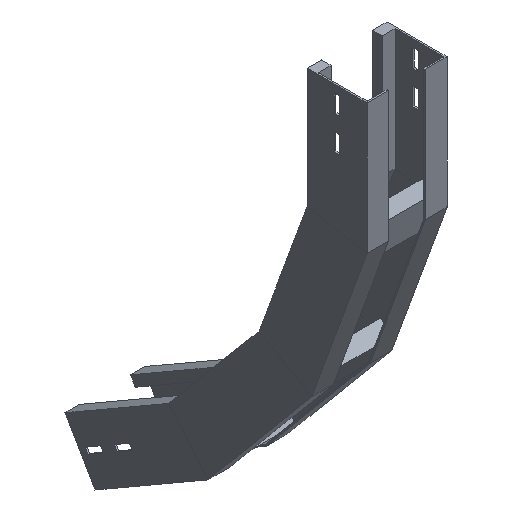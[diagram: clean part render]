
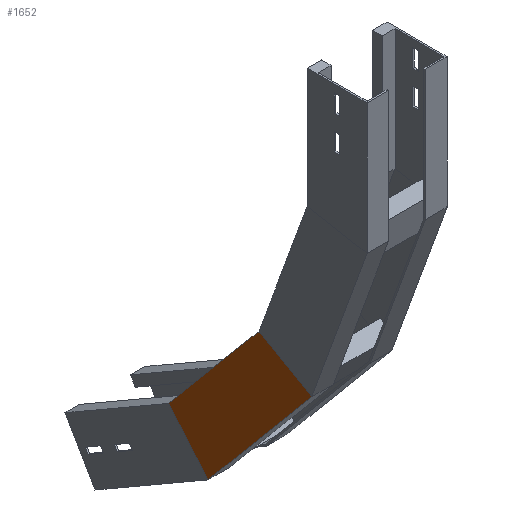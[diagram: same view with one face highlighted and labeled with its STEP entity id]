
A CAD part, isometric view. The second image highlights one B-rep face of the part: STEP entity #1652.
In plain terms, the highlighted planar face has unit normal (-1, 0, 0) as drawn and (1, 0, 0) by its records, which use the part's own axes.
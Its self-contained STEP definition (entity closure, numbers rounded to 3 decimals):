
#19 = ORIENTED_EDGE ( 'NONE', *, *, #341, .F. ) ;
#202 = DIRECTION ( 'NONE',  ( -1., 0., 0. ) ) ;
#244 = ORIENTED_EDGE ( 'NONE', *, *, #394, .F. ) ;
#265 = EDGE_CURVE ( 'NONE', #1370, #370, #976, .T. ) ;
#271 = DIRECTION ( 'NONE',  ( 0., 0.342, -0.94 ) ) ;
#315 = VECTOR ( 'NONE', #1266, 1000. ) ;
#319 = VERTEX_POINT ( 'NONE', #706 ) ;
#323 = PLANE ( 'NONE',  #462 ) ;
#325 = LINE ( 'NONE', #868, #315 ) ;
#341 = EDGE_CURVE ( 'NONE', #319, #1438, #325, .T. ) ;
#355 = CARTESIAN_POINT ( 'NONE',  ( 0., 0., -163. ) ) ;
#370 = VERTEX_POINT ( 'NONE', #355 ) ;
#372 = ORIENTED_EDGE ( 'NONE', *, *, #265, .T. ) ;
#394 = EDGE_CURVE ( 'NONE', #1370, #319, #399, .T. ) ;
#399 = LINE ( 'NONE', #946, #746 ) ;
#462 = AXIS2_PLACEMENT_3D ( 'NONE', #1386, #202, #1137 ) ;
#504 = EDGE_LOOP ( 'NONE', ( #244, #372, #980, #19 ) ) ;
#567 = DIRECTION ( 'NONE',  ( 0., 0.342, -0.94 ) ) ;
#706 = CARTESIAN_POINT ( 'NONE',  ( 0., 135.11, -314.927 ) ) ;
#746 = VECTOR ( 'NONE', #271, 1000. ) ;
#823 = LINE ( 'NONE', #953, #1347 ) ;
#868 = CARTESIAN_POINT ( 'NONE',  ( 0., 99.564, -335.45 ) ) ;
#890 = EDGE_CURVE ( 'NONE', #370, #1438, #823, .T. ) ;
#946 = CARTESIAN_POINT ( 'NONE',  ( 0., 70.477, -137.348 ) ) ;
#953 = CARTESIAN_POINT ( 'NONE',  ( 0., 0., -163. ) ) ;
#976 = LINE ( 'NONE', #1494, #1265 ) ;
#980 = ORIENTED_EDGE ( 'NONE', *, *, #890, .T. ) ;
#982 = DIRECTION ( 'NONE',  ( 0., -0.985, -0.174 ) ) ;
#989 = CARTESIAN_POINT ( 'NONE',  ( 0., 75., -149.775 ) ) ;
#1137 = DIRECTION ( 'NONE',  ( 0., 0., 1. ) ) ;
#1265 = VECTOR ( 'NONE', #982, 1000. ) ;
#1266 = DIRECTION ( 'NONE',  ( 0., -0.866, -0.5 ) ) ;
#1347 = VECTOR ( 'NONE', #567, 1000. ) ;
#1370 = VERTEX_POINT ( 'NONE', #989 ) ;
#1386 = CARTESIAN_POINT ( 'NONE',  ( 0., 0., -163. ) ) ;
#1438 = VERTEX_POINT ( 'NONE', #1473 ) ;
#1473 = CARTESIAN_POINT ( 'NONE',  ( 0., 69.156, -353.006 ) ) ;
#1494 = CARTESIAN_POINT ( 'NONE',  ( 0., 27.875, -158.085 ) ) ;
#1513 = FACE_OUTER_BOUND ( 'NONE', #504, .T. ) ;
#1652 = ADVANCED_FACE ( 'NONE', ( #1513 ), #323, .F. ) ;
